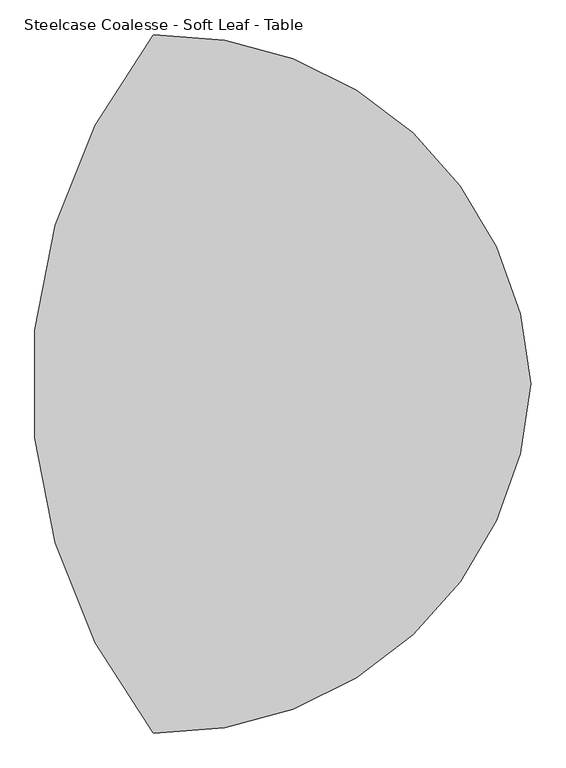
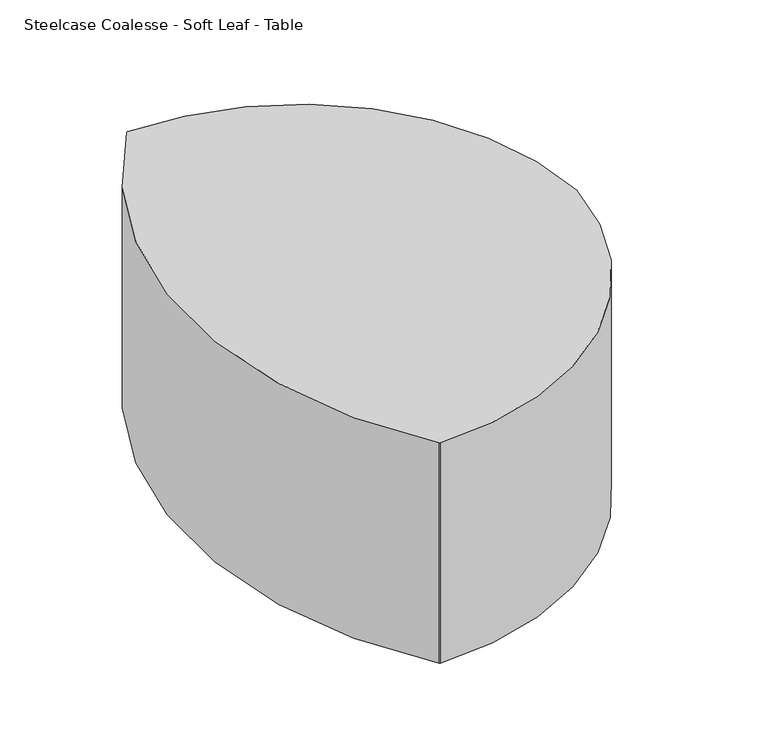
"""IFC4 building model written with IfcOpenShell, lengths in millimetres: furniture geometry, Steelcase Coalesse - Soft Leaf - Table : 39 1/2D x 28 1/2W."""

from ifc_helpers import new_model, si_unit, point, frame_2d, origin, origin_with_axes, place, context, project, spatial, circle_curve, trimmed, segment, composite_curve, outline, extrude, source, transform, mapped, element, save


def steelcase_coalesse_soft_leaf_table_ce108bc3(model_context):
    return source(origin(), model_context, "Body", "SweptSolid", [
        extrude(outline(composite_curve([segment(trimmed(circle_curve(frame_2d((1064.3425613, -203.5202024)), 809.8052039), [point((428.2512974, -704.6912034))], [point((428.2512138, 297.6506925))], False, "CARTESIAN"), True, "CONTINUOUS"), segment(trimmed(circle_curve(frame_2d((429.2487821, 296.864717)), 1.27), [point((428.2512138, 297.6506925))], [point((429.219607, 298.1343819))], False, "CARTESIAN"), True, "CONTINUOUS"), segment(trimmed(circle_curve(frame_2d((441.4167814, -232.6713301)), 530.9458305), [point((429.219607, 298.1343819))], [point((971.544045, -203.2))], False, "CARTESIAN"), True, "CONTINUOUS"), segment(trimmed(circle_curve(frame_2d((441.5059661, -174.5027284)), 530.8143729), [point((971.544045, -203.2))], [point((429.2194695, -705.1748875))], False, "CARTESIAN"), True, "CONTINUOUS"), segment(trimmed(circle_curve(frame_2d((429.2488656, -703.9052278)), 1.27), [point((429.2194695, -705.1748875))], [point((428.2512974, -704.6912034))], False, "CARTESIAN"), True, "CONTINUOUS")], self_intersect=False)), origin_with_axes(), (0.0, 0.0, 1.0), 431.7999785),
    ])


if __name__ == "__main__":
    model = new_model("IFC4")
    model_context = context("Model", 3, world=origin())
    ifc_project = project(units=[si_unit("LENGTHUNIT", "METRE", prefix="MILLI")], contexts=[model_context])
    site = spatial("IfcSite", under=ifc_project)
    building = spatial("IfcBuilding", under=site)
    placement = place(None, origin())
    steelcase_coalesse_soft_leaf_table_shape = steelcase_coalesse_soft_leaf_table_ce108bc3(model_context)
    element("IfcFurniture", 1, ObjectType="Steelcase Coalesse - Soft Leaf - Table : 39 1/2D x 28 1/2W", at=placement, inside=building, context=model_context, shape_type="MappedRepresentation", body=[
        mapped(steelcase_coalesse_soft_leaf_table_shape, transform((0.0, 0.0, 0.0), x_axis=(1.0, 0.0, 0.0), y_axis=(0.0, 1.0, 0.0), z_axis=(0.0, 0.0, 1.0))),
    ])
    save(model, "model.ifc")
